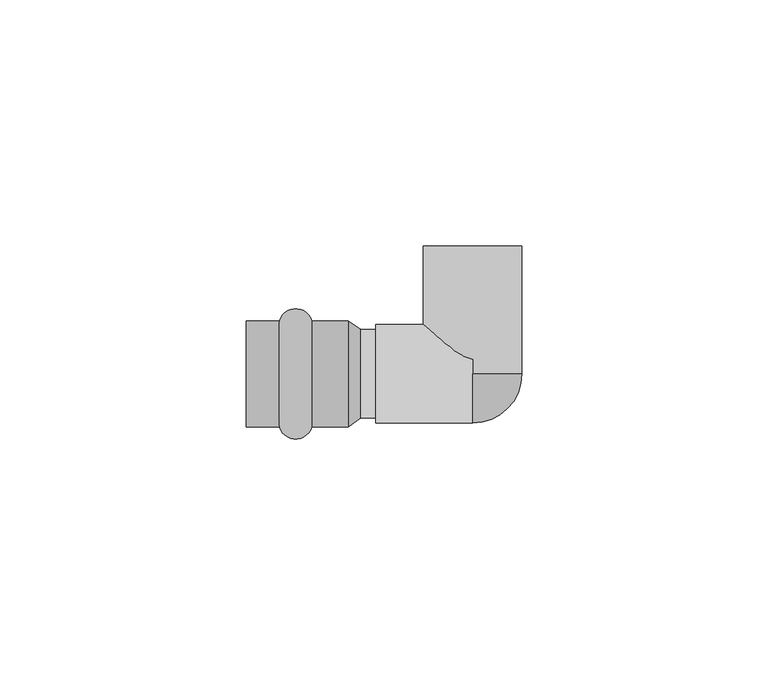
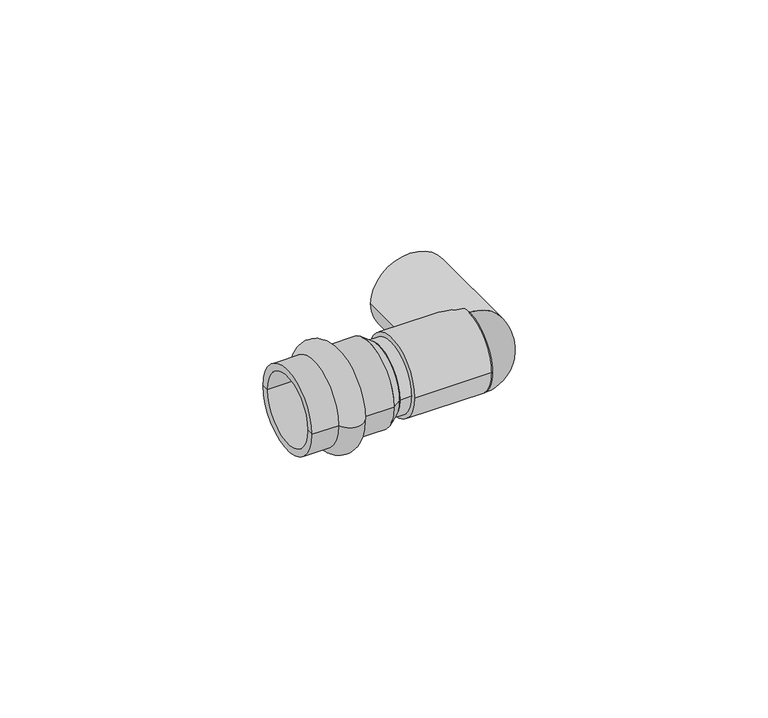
"""IFC4 building model written with IfcOpenShell, lengths in millimetres: pipe fitting geometry, VALTEC_VTi.952.I_Угольник с переходом на внутреннюю резьбу нержавеющая сталь : VTi.952.I."""

from ifc_helpers import new_model, si_unit, point, frame, origin, origin_2d, place, context, project, spatial, polyline, circle_curve, ellipse_curve, trimmed, segment, composite_curve, outline, extrude, source, transform, mapped, element, save
from ifc_brep_helpers import plane_surface, cylinder_surface, revolved_surface, advanced_brep


def pipe_fitting_0042974a(model_context):
    return source(origin(), model_context, "Body", "SolidModel", [
        advanced_brep(
        [(-39.2287193, -10.75, 0.0), (-39.2287193, 10.75, 0.0), (-32.6712807, 10.75, 0.0), (-32.6712807, -10.75, 0.0), (-46.0, -10.75, 0.0), (-46.0, 10.75, 0.0), (-46.0, -9.0, 0.0), (-46.0, 9.0, 0.0), (-25.3, -9.0, 0.0), (-25.3, 9.0, 0.0), (-25.3, -10.75, 0.0), (-25.3, 10.75, 0.0)],
        [
            (0, 1, circle_curve(frame((-39.2287193, 0.0, 0.0), z_axis=(1.0, 0.0, 0.0), x_axis=(0.0, 1.0, 0.0)), 10.75)),
            (1, 2, circle_curve(frame((-35.95, 9.85, 0.0), z_axis=(0.0, 0.0, -1.0), x_axis=(1.0, 0.0, 0.0)), 3.4)),
            (2, 3, circle_curve(frame((-32.6712807, 0.0, 0.0), z_axis=(-1.0, 0.0, 0.0), x_axis=(0.0, 1.0, 0.0)), 10.75)),
            (3, 0, circle_curve(frame((-35.95, -9.85, 0.0), z_axis=(0.0, 0.0, -1.0), x_axis=(1.0, 0.0, 0.0)), 3.4)),
            (1, 0, circle_curve(frame((-39.2287193, 0.0, 0.0), z_axis=(1.0, 0.0, 0.0), x_axis=(0.0, 1.0, 0.0)), 10.75)),
            (3, 2, circle_curve(frame((-32.6712807, 0.0, 0.0), z_axis=(-1.0, 0.0, 0.0), x_axis=(0.0, 1.0, 0.0)), 10.75)),
            (4, 5, circle_curve(frame((-46.0, 0.0, 0.0), z_axis=(1.0, 0.0, 0.0), x_axis=(0.0, 1.0, 0.0)), 10.75)),
            (5, 1),
            (0, 4),
            (5, 4, circle_curve(frame((-46.0, 0.0, 0.0), z_axis=(1.0, 0.0, 0.0), x_axis=(0.0, 1.0, 0.0)), 10.75)),
            (6, 7, circle_curve(frame((-46.0, 0.0, 0.0), z_axis=(1.0, 0.0, 0.0), x_axis=(0.0, 1.0, 0.0)), 9.0)),
            (7, 5),
            (4, 6),
            (7, 6, circle_curve(frame((-46.0, 0.0, 0.0), z_axis=(1.0, 0.0, 0.0), x_axis=(0.0, 1.0, 0.0)), 9.0)),
            (8, 9, circle_curve(frame((-25.3, 0.0, 0.0), z_axis=(1.0, 0.0, 0.0), x_axis=(0.0, 1.0, 0.0)), 9.0)),
            (9, 7),
            (6, 8),
            (9, 8, circle_curve(frame((-25.3, 0.0, 0.0), z_axis=(1.0, 0.0, 0.0), x_axis=(0.0, 1.0, 0.0)), 9.0)),
            (10, 11, circle_curve(frame((-25.3, 0.0, 0.0), z_axis=(1.0, 0.0, 0.0), x_axis=(0.0, 1.0, 0.0)), 10.75)),
            (11, 9),
            (8, 10),
            (11, 10, circle_curve(frame((-25.3, 0.0, 0.0), z_axis=(1.0, 0.0, 0.0), x_axis=(0.0, 1.0, 0.0)), 10.75)),
            (2, 11),
            (10, 3),
        ],
        [
            revolved_surface(trimmed(ellipse_curve(frame((-35.95, 9.85, 0.0), z_axis=(0.0, 0.0, 1.0), x_axis=(1.0, 0.0, 0.0)), 3.4, 3.4), [point((-32.6712807, 10.75, 0.0))], [point((-39.2287193, 10.75, 0.0))], True, "CARTESIAN"), (-49.5364426, 0.0, 0.0), (-1.0, 0.0, 0.0)),
            cylinder_surface(frame((-49.5364426, 0.0, 0.0), z_axis=(-1.0, 0.0, 0.0), x_axis=(0.0, 1.0, 0.0)), 10.75),
            plane_surface(frame((-46.0, 0.0, 0.0), z_axis=(-1.0, 0.0, 0.0), x_axis=(0.0, 1.0, 0.0))),
            revolved_surface(polyline([(-46.0, 9.0, 0.0), (-25.3, 9.0, 0.0)]), (-49.5364426, 0.0, 0.0), (-1.0, 0.0, 0.0)),
            plane_surface(frame((-25.3, 0.0, 0.0), z_axis=(1.0, 0.0, 0.0), x_axis=(0.0, 1.0, 0.0))),
        ],
        [
            (0, [[1, 2, 3, 4]]),
            (0, [[5, -4, 6, -2]]),
            (1, [[7, 8, -1, 9]]),
            (1, [[10, -9, -5, -8]]),
            (2, [[11, 12, -7, 13]]),
            (2, [[14, -13, -10, -12]]),
            (3, [[15, 16, -11, 17]]),
            (3, [[18, -17, -14, -16]]),
            (4, [[19, 20, -15, 21]]),
            (4, [[22, -21, -18, -20]]),
            (1, [[-3, 23, -19, 24]]),
            (1, [[-6, -24, -22, -23]]),
        ],
    ),
        advanced_brep(
        [(0.0, 0.0, -10.0), (0.0, 0.0, 10.0)],
        [
            (0, 1, circle_curve(frame((0.0, 0.0, 0.0), z_axis=(-1.0, 0.0, 0.0), x_axis=(0.0, -1.0, 0.0)), 10.0)),
            (1, 0),
            (1, 0, circle_curve(frame((0.0, 0.0, 0.0), z_axis=(0.0, 1.0, 0.0), x_axis=(1.0, 0.0, 0.0)), 10.0)),
        ],
        [
            plane_surface(frame((0.0, 0.0, 1.732782), z_axis=(-1.0, 0.0, 0.0), x_axis=(0.0, -1.0, 0.0))),
            plane_surface(frame((0.0, 0.0, 1.732782), z_axis=(0.0, 1.0, 0.0), x_axis=(1.0, 0.0, 0.0))),
            revolved_surface(trimmed(ellipse_curve(frame((0.0, 0.0, 0.0), z_axis=(-1.0, 0.0, 0.0), x_axis=(0.0, -1.0, 0.0)), 10.0, 10.0), [point((0.0, 0.0, -10.0))], [point((0.0, 0.0, 10.0))], True, "CARTESIAN"), (0.0, 0.0, 1.732782), (0.0, 0.0, 1.0)),
        ],
        [
            (0, [[1, 2]]),
            (1, [[3, -2]]),
            (2, [[-1, -3]]),
        ],
    ),
        extrude(outline(composite_curve([segment(trimmed(circle_curve(origin_2d(), 10.0), [point((-10.0, 0.0))], [point((10.0, 0.0))], False, "CARTESIAN"), True, "CONTINUOUS"), segment(trimmed(circle_curve(origin_2d(), 10.0), [point((10.0, 0.0))], [point((-10.0, 0.0))], False, "CARTESIAN"), True, "CONTINUOUS")], self_intersect=False)), frame((-19.6390217, 0.0, 0.0), z_axis=(1.0, 0.0, 0.0), x_axis=(0.0, 1.0, 0.0)), (0.0, 0.0, 1.0), 19.6390217),
        extrude(outline(composite_curve([segment(trimmed(circle_curve(origin_2d(), 10.0), [point((0.0, -10.0))], [point((0.0, 10.0))], False, "CARTESIAN"), True, "CONTINUOUS"), segment(trimmed(circle_curve(origin_2d(), 10.0), [point((0.0, 10.0))], [point((0.0, -10.0))], False, "CARTESIAN"), True, "CONTINUOUS")], self_intersect=False), holes=[composite_curve([segment(trimmed(circle_curve(origin_2d(), 7.5), [point((0.0, -7.5))], [point((0.0, 7.5))], True, "CARTESIAN"), True, "CONTINUOUS"), segment(trimmed(circle_curve(origin_2d(), 7.5), [point((0.0, 7.5))], [point((0.0, -7.5))], True, "CARTESIAN"), True, "CONTINUOUS")], self_intersect=False)]), frame((0.0, 0.0, 0.0), z_axis=(0.0, 1.0, 0.0), x_axis=(0.0, 0.0, 1.0)), (0.0, 0.0, 1.0), 26.0),
        extrude(outline(composite_curve([segment(trimmed(circle_curve(origin_2d(), 9.0), [point((-9.0, 0.0))], [point((9.0, 0.0))], False, "CARTESIAN"), True, "CONTINUOUS"), segment(trimmed(circle_curve(origin_2d(), 9.0), [point((9.0, 0.0))], [point((-9.0, 0.0))], False, "CARTESIAN"), True, "CONTINUOUS")], self_intersect=False)), frame((-22.77, 0.0, 0.0), z_axis=(1.0, 0.0, 0.0), x_axis=(0.0, 1.0, 0.0)), (0.0, 0.0, 1.0), 3.1309783),
        advanced_brep(
        [(-25.3, -10.75, 0.0), (-25.3, 10.75, 0.0), (-22.77, -9.0, 0.0), (-22.77, 9.0, 0.0)],
        [
            (0, 1, circle_curve(frame((-25.3, 0.0, 0.0), z_axis=(-1.0, 0.0, 0.0), x_axis=(0.0, -1.0, 0.0)), 10.75)),
            (1, 0, circle_curve(frame((-25.3, 0.0, 0.0), z_axis=(-1.0, 0.0, 0.0), x_axis=(0.0, 1.0, 0.0)), 10.75)),
            (2, 3, circle_curve(frame((-22.77, 0.0, 0.0), z_axis=(1.0, 0.0, 0.0), x_axis=(0.0, 1.0, 0.0)), 9.0)),
            (3, 2, circle_curve(frame((-22.77, 0.0, 0.0), z_axis=(1.0, 0.0, 0.0), x_axis=(0.0, -1.0, 0.0)), 9.0)),
            (2, 0),
            (1, 3),
        ],
        [
            plane_surface(frame((-25.3, 0.0, 0.0), z_axis=(-1.0, 0.0, 0.0), x_axis=(0.0, 0.0, -1.0))),
            plane_surface(frame((-22.77, 0.0, 0.0), z_axis=(1.0, 0.0, 0.0), x_axis=(0.0, 0.0, -1.0))),
            revolved_surface(polyline([(-22.77, -9.000000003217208, 0.0), (-25.3, -10.75, 0.0)]), (-9.7585714, 0.0, 0.0), (-1.0, 0.0, 0.0)),
            revolved_surface(polyline([(-22.77, 9.000000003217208, 0.0), (-25.3, 10.75, 0.0)]), (-9.7585714, 0.0, 0.0), (-1.0, 0.0, 0.0)),
        ],
        [
            (0, [[1, 2]]),
            (1, [[3, 4]]),
            (2, [[-3, 5, -2, 6]]),
            (3, [[-4, -6, -1, -5]]),
        ],
    ),
    ])


if __name__ == "__main__":
    model = new_model("IFC4")
    model_context = context("Model", 3, world=origin())
    ifc_project = project(units=[si_unit("LENGTHUNIT", "METRE", prefix="MILLI")], contexts=[model_context])
    site = spatial("IfcSite", under=ifc_project)
    building = spatial("IfcBuilding", under=site)
    placement = place(None, origin())
    pipe_fitting_shape = pipe_fitting_0042974a(model_context)
    element("IfcPipeFitting", 1, ObjectType="VALTEC_VTi.952.I_Угольник с переходом на внутреннюю резьбу нержавеющая сталь : VTi.952.I", at=placement, inside=building, context=model_context, shape_type="MappedRepresentation", body=[
        mapped(pipe_fitting_shape, transform((0.0, 0.0, 0.0), x_axis=(1.0, 0.0, 0.0), y_axis=(0.0, 1.0, 0.0), z_axis=(0.0, 0.0, 1.0))),
    ])
    save(model, "model.ifc")
